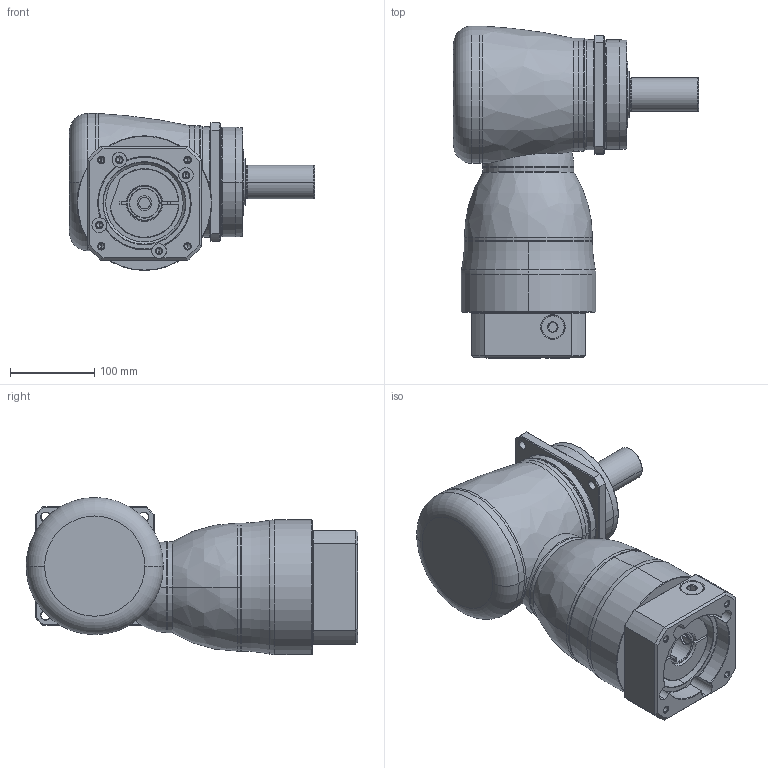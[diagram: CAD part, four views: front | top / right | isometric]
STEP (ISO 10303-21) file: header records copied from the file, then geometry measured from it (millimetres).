
FILE_DESCRIPTION((''),'2;1');
FILE_NAME('KF140_2ST_35-P0409800101_ASM','2016-06-27T',('d01943'),(''),'PRO/ENGINEER BY PARAMETRIC TECHNOLOGY CORPORATION, 2008410','PRO/ENGINEER BY PARAMETRIC TECHNOLOGY CORPORATION, 2008410','');
FILE_SCHEMA(('CONFIG_CONTROL_DESIGN'));
Length unit declared in the file: millimetre
Products named in the file (11): P1008500002; P1804500001; P0915500001; P1315500001; P1007500001; P1317500401; P0409800101; P0503800012; P0912404001; 21711422019; KF140_2ST_35-P0409800101_ASM
Assembly tree (10 placements, depth 2):
  KF140_2ST_35-P0409800101_ASM
    P1008500002
    P1804500001
    P0915500001
    P1315500001
    P1007500001
    P1317500401
    P0409800101
    P0503800012
    P0912404001
    21711422019
Bounding box: 291 x 394 x 186.5 mm (x, y, z)
Volume: 5538365.8 mm3; surface area: 583896.9 mm2
Topology: 11 solids, 11 shells, 472 faces, 1071 edges, 639 vertices
Faces by surface type: cylinder 160, cone 128, plane 99, torus 62, bspline 21, sphere 2
Entity records: 18353 total; most frequent: CARTESIAN_POINT 7478, DIRECTION 2406, ORIENTED_EDGE 2106, EDGE_CURVE 1053, AXIS2_PLACEMENT_3D 1021, VERTEX_POINT 639, CIRCLE 549, EDGE_LOOP 542
